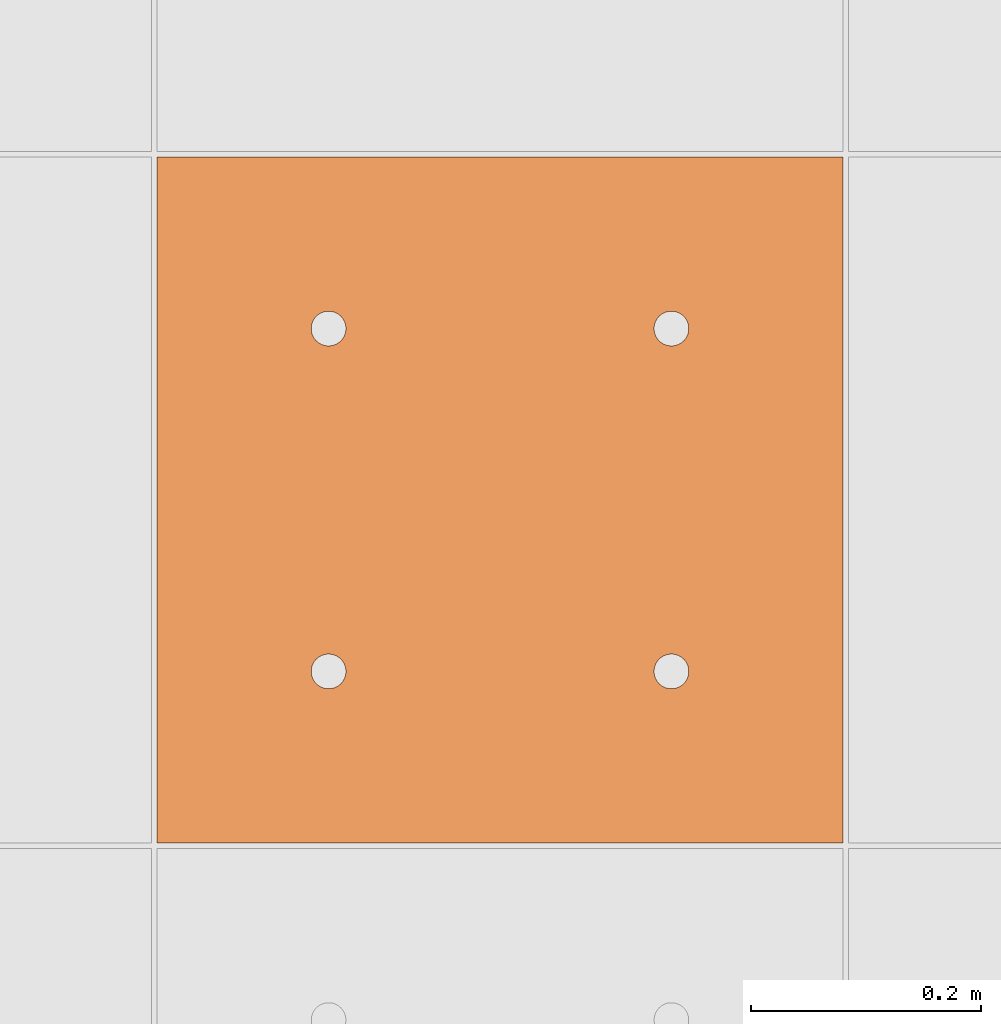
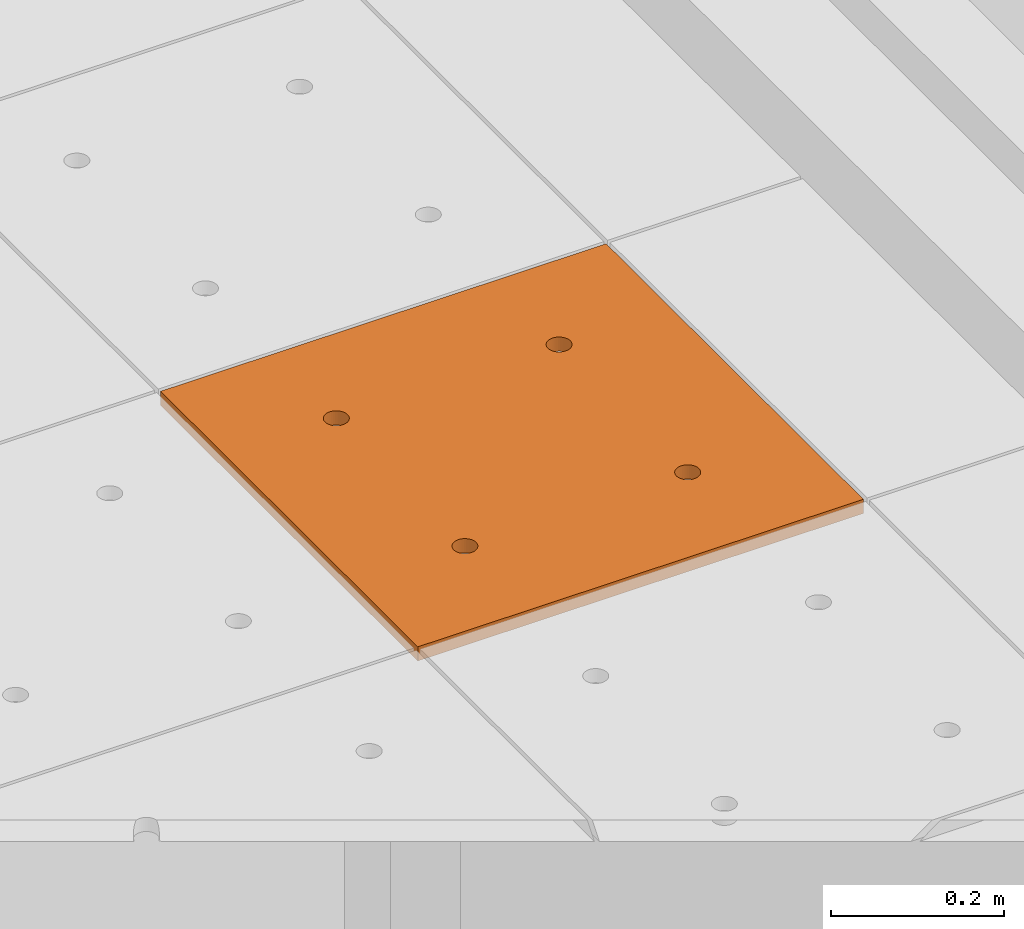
# One storey, part 293 of 338: 1 proxy, 1 element without a shape of its own.
"""IFC2X3 building model written with IfcOpenShell, lengths in millimetres."""

from ifc_helpers import new_model, entity, si_unit, converted_unit, derived_unit, money_unit, direction, frame, origin_with_axes, place, context, subcontext, project, spatial, faceted_brep, source, transform, mapped, material, type_object, type_shapes, element, aggregate, save


model = new_model("IFC2X3")

# Units and contexts
model_context = context("Model", 3, precision=0.01, world=origin_with_axes(), true_north=direction((0.0, 1.0)))
plan_context = context("Plan", 3, precision=0.01, world=origin_with_axes(), true_north=direction((0.0, 1.0)))
body_context = subcontext(model_context, "Body", "Model", "MODEL_VIEW")
ifc_project = project(units=[si_unit("LENGTHUNIT", "METRE", prefix="MILLI"), si_unit("AREAUNIT", "SQUARE_METRE"), si_unit("VOLUMEUNIT", "CUBIC_METRE"), converted_unit("PLANEANGLEUNIT", "DEGREE", entity("IfcPlaneAngleMeasure", 0.0174532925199), si_unit("PLANEANGLEUNIT", "RADIAN"), dimensions=[0, 0, 0, 0, 0, 0, 0]), money_unit("EUR"), converted_unit("TIMEUNIT", "Year", entity("IfcTimeMeasure", 31556926.0), si_unit("TIMEUNIT", "SECOND"), dimensions=[0, 0, 1, 0, 0, 0, 0]), si_unit("MASSUNIT", "GRAM", prefix="KILO"), si_unit("THERMODYNAMICTEMPERATUREUNIT", "DEGREE_CELSIUS"), si_unit("LUMINOUSINTENSITYUNIT", "LUMEN"), si_unit("ENERGYUNIT", "JOULE", prefix="MEGA"), derived_unit("THERMALCONDUCTANCEUNIT", [(si_unit("POWERUNIT", "WATT"), 1), (si_unit("LENGTHUNIT", "METRE"), -1), (si_unit("THERMODYNAMICTEMPERATUREUNIT", "KELVIN"), -1)]), derived_unit("SPECIFICHEATCAPACITYUNIT", [(si_unit("ENERGYUNIT", "JOULE"), 1), (si_unit("MASSUNIT", "GRAM", prefix="KILO"), -1), (si_unit("THERMODYNAMICTEMPERATUREUNIT", "KELVIN"), -1)]), derived_unit("MASSDENSITYUNIT", [(si_unit("MASSUNIT", "GRAM", prefix="KILO"), 1), (si_unit("VOLUMEUNIT", "CUBIC_METRE"), -1)])], contexts=[model_context, plan_context])

# Site, building, storey
site_placement = place(None, origin_with_axes())
site = spatial("IfcSite", under=ifc_project, at=site_placement, Name="Fortuinstraat Woensdrecht", CompositionType="ELEMENT")
building_placement = place(site_placement, origin_with_axes())
building = spatial("IfcBuilding", under=site, at=building_placement, Name="IKC Fortuna", CompositionType="ELEMENT")
storey_placement = place(building_placement, origin_with_axes())
storey = spatial("IfcBuildingStorey", under=building, at=storey_placement, Name="00 begane grond", CompositionType="ELEMENT", Elevation=0.0)

# Covering, proxy
covering_type = type_object("IfcCoveringType", Name="Curtain Wall Type", PredefinedType="CEILING")
covering_placement = place(storey_placement, frame((31656.9226967, 15748.5304598, 3210.0), z_axis=(0.0, 0.0, 1.0), x_axis=(1.0, 0.0, 0.0)))
covering = element("IfcCovering", 1, at=covering_placement, inside=storey, type_object=covering_type, Name="45_Plafondafwerking_P01", PredefinedType="CEILING")
ifc_material = material(Name="Gipsplaat")
building_element_proxy_type = type_object("IfcBuildingElementProxyType", Name="Main Panel 600 x 600 x 20", PredefinedType="NOTDEFINED")
shared_shape = source(origin_with_axes(), body_context, "Body", "Brep", [
    faceted_brep([(2.49999999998, 2.49999999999, -10.0), (300.0, 2.49999999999, -10.0), (300.0, 2.49999999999, 10.0), (2.49999999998, 2.49999999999, 10.0), (2.49999999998, 300.0, -10.0), (2.49999999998, 597.5, -10.0), (300.0, 597.5, -10.0), (597.5, 597.5, -10.0), (597.5, 300.0, -10.0), (597.5, 2.49999999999, -10.0), (166.25, 450.06232995, -10.0), (165.79423259, 452.64711538, -10.0), (164.896546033, 455.11348892, -10.0), (163.58421608, 457.38651108, -10.0), (161.897117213, 459.39711721, -10.0), (159.886511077, 461.08421608, -10.0), (157.613488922, 462.39654603, -10.0), (155.147115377, 463.29423259, -10.0), (152.562329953, 463.75, -10.0), (149.937670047, 463.75, -10.0), (147.352884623, 463.29423259, -10.0), (144.886511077, 462.39654603, -10.0), (142.613488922, 461.08421608, -10.0), (140.602882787, 459.39711721, -10.0), (138.91578392, 457.38651108, -10.0), (137.603453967, 455.11348892, -10.0), (136.705767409, 452.64711538, -10.0), (136.25, 450.06232995, -10.0), (136.25, 448.75, -10.0), (136.25, 447.43767005, -10.0), (136.705767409, 444.85288462, -10.0), (137.603453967, 442.38651108, -10.0), (138.91578392, 440.11348892, -10.0), (140.602882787, 438.10288279, -10.0), (142.613488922, 436.41578392, -10.0), (144.886511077, 435.10345397, -10.0), (147.352884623, 434.20576741, -10.0), (149.937670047, 433.75, -10.0), (152.562329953, 433.75, -10.0), (155.147115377, 434.20576741, -10.0), (157.613488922, 435.10345397, -10.0), (159.886511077, 436.41578392, -10.0), (161.897117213, 438.10288279, -10.0), (163.58421608, 440.11348892, -10.0), (164.896546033, 442.38651108, -10.0), (165.79423259, 444.85288462, -10.0), (166.25, 447.43767005, -10.0), (463.75, 450.06232995, -10.0), (463.29423259, 452.64711538, -10.0), (462.396546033, 455.11348892, -10.0), (461.08421608, 457.38651108, -10.0), (459.397117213, 459.39711721, -10.0), (457.386511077, 461.08421608, -10.0), (455.113488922, 462.39654603, -10.0), (452.647115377, 463.29423259, -10.0), (450.062329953, 463.75, -10.0), (447.437670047, 463.75, -10.0), (444.852884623, 463.29423259, -10.0), (442.386511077, 462.39654603, -10.0), (440.113488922, 461.08421608, -10.0), (438.102882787, 459.39711721, -10.0), (436.41578392, 457.38651108, -10.0), (435.103453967, 455.11348892, -10.0), (434.205767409, 452.64711538, -10.0), (433.75, 450.06232995, -10.0), (433.75, 448.75, -10.0), (433.75, 447.43767005, -10.0), (434.205767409, 444.85288462, -10.0), (435.103453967, 442.38651108, -10.0), (436.41578392, 440.11348892, -10.0), (438.102882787, 438.10288279, -10.0), (440.113488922, 436.41578392, -10.0), (442.386511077, 435.10345397, -10.0), (444.852884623, 434.20576741, -10.0), (447.437670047, 433.75, -10.0), (450.062329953, 433.75, -10.0), (452.647115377, 434.20576741, -10.0), (455.113488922, 435.10345397, -10.0), (457.386511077, 436.41578392, -10.0), (459.397117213, 438.10288279, -10.0), (461.08421608, 440.11348892, -10.0), (462.396546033, 442.38651108, -10.0), (463.29423259, 444.85288462, -10.0), (463.75, 447.43767005, -10.0), (463.75, 152.56232995, -10.0), (463.29423259, 155.14711538, -10.0), (462.396546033, 157.61348892, -10.0), (461.08421608, 159.88651108, -10.0), (459.397117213, 161.89711721, -10.0), (457.386511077, 163.58421608, -10.0), (455.113488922, 164.89654603, -10.0), (452.647115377, 165.79423259, -10.0), (450.062329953, 166.25, -10.0), (447.437670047, 166.25, -10.0), (444.852884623, 165.79423259, -10.0), (442.386511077, 164.89654603, -10.0), (440.113488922, 163.58421608, -10.0), (438.102882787, 161.89711721, -10.0), (436.41578392, 159.88651108, -10.0), (435.103453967, 157.61348892, -10.0), (434.205767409, 155.14711538, -10.0), (433.75, 152.56232995, -10.0), (433.75, 151.25, -10.0), (433.75, 149.93767005, -10.0), (434.205767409, 147.35288462, -10.0), (435.103453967, 144.88651108, -10.0), (436.41578392, 142.61348892, -10.0), (438.102882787, 140.60288279, -10.0), (440.113488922, 138.91578392, -10.0), (442.386511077, 137.60345397, -10.0), (444.852884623, 136.70576741, -10.0), (447.437670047, 136.25, -10.0), (450.062329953, 136.25, -10.0), (452.647115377, 136.70576741, -10.0), (455.113488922, 137.60345397, -10.0), (457.386511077, 138.91578392, -10.0), (459.397117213, 140.60288279, -10.0), (461.08421608, 142.61348892, -10.0), (462.396546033, 144.88651108, -10.0), (463.29423259, 147.35288462, -10.0), (463.75, 149.93767005, -10.0), (166.25, 152.56232995, -10.0), (165.79423259, 155.14711538, -10.0), (164.896546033, 157.61348892, -10.0), (163.58421608, 159.88651108, -10.0), (161.897117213, 161.89711721, -10.0), (159.886511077, 163.58421608, -10.0), (157.613488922, 164.89654603, -10.0), (155.147115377, 165.79423259, -10.0), (152.562329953, 166.25, -10.0), (149.937670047, 166.25, -10.0), (147.352884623, 165.79423259, -10.0), (144.886511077, 164.89654603, -10.0), (142.613488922, 163.58421608, -10.0), (140.602882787, 161.89711721, -10.0), (138.91578392, 159.88651108, -10.0), (137.603453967, 157.61348892, -10.0), (136.705767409, 155.14711538, -10.0), (136.25, 152.56232995, -10.0), (136.25, 151.25, -10.0), (136.25, 149.93767005, -10.0), (136.705767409, 147.35288462, -10.0), (137.603453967, 144.88651108, -10.0), (138.91578392, 142.61348892, -10.0), (140.602882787, 140.60288279, -10.0), (142.613488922, 138.91578392, -10.0), (144.886511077, 137.60345397, -10.0), (147.352884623, 136.70576741, -10.0), (149.937670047, 136.25, -10.0), (152.562329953, 136.25, -10.0), (155.147115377, 136.70576741, -10.0), (157.613488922, 137.60345397, -10.0), (159.886511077, 138.91578392, -10.0), (161.897117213, 140.60288279, -10.0), (163.58421608, 142.61348892, -10.0), (164.896546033, 144.88651108, -10.0), (165.79423259, 147.35288462, -10.0), (166.25, 149.93767005, -10.0), (597.5, 2.49999999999, 10.0), (597.5, 300.0, 10.0), (597.5, 597.5, 10.0), (300.0, 597.5, 10.0), (2.49999999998, 597.5, 10.0), (2.49999999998, 300.0, 10.0), (166.25, 450.06232995, 10.0), (166.25, 447.43767005, 10.0), (165.79423259, 444.85288462, 10.0), (164.896546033, 442.38651108, 10.0), (163.58421608, 440.11348892, 10.0), (161.897117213, 438.10288279, 10.0), (159.886511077, 436.41578392, 10.0), (157.613488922, 435.10345397, 10.0), (155.147115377, 434.20576741, 10.0), (152.562329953, 433.75, 10.0), (149.937670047, 433.75, 10.0), (147.352884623, 434.20576741, 10.0), (144.886511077, 435.10345397, 10.0), (142.613488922, 436.41578392, 10.0), (140.602882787, 438.10288279, 10.0), (138.91578392, 440.11348892, 10.0), (137.603453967, 442.38651108, 10.0), (136.705767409, 444.85288462, 10.0), (136.25, 447.43767005, 10.0), (136.25, 448.75, 10.0), (136.25, 450.06232995, 10.0), (136.705767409, 452.64711538, 10.0), (137.603453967, 455.11348892, 10.0), (138.91578392, 457.38651108, 10.0), (140.602882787, 459.39711721, 10.0), (142.613488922, 461.08421608, 10.0), (144.886511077, 462.39654603, 10.0), (147.352884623, 463.29423259, 10.0), (149.937670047, 463.75, 10.0), (152.562329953, 463.75, 10.0), (155.147115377, 463.29423259, 10.0), (157.613488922, 462.39654603, 10.0), (159.886511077, 461.08421608, 10.0), (161.897117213, 459.39711721, 10.0), (163.58421608, 457.38651108, 10.0), (164.896546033, 455.11348892, 10.0), (165.79423259, 452.64711538, 10.0), (463.75, 450.06232995, 10.0), (463.75, 447.43767005, 10.0), (463.29423259, 444.85288462, 10.0), (462.396546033, 442.38651108, 10.0), (461.08421608, 440.11348892, 10.0), (459.397117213, 438.10288279, 10.0), (457.386511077, 436.41578392, 10.0), (455.113488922, 435.10345397, 10.0), (452.647115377, 434.20576741, 10.0), (450.062329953, 433.75, 10.0), (447.437670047, 433.75, 10.0), (444.852884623, 434.20576741, 10.0), (442.386511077, 435.10345397, 10.0), (440.113488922, 436.41578392, 10.0), (438.102882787, 438.10288279, 10.0), (436.41578392, 440.11348892, 10.0), (435.103453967, 442.38651108, 10.0), (434.205767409, 444.85288462, 10.0), (433.75, 447.43767005, 10.0), (433.75, 448.75, 10.0), (433.75, 450.06232995, 10.0), (434.205767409, 452.64711538, 10.0), (435.103453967, 455.11348892, 10.0), (436.41578392, 457.38651108, 10.0), (438.102882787, 459.39711721, 10.0), (440.113488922, 461.08421608, 10.0), (442.386511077, 462.39654603, 10.0), (444.852884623, 463.29423259, 10.0), (447.437670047, 463.75, 10.0), (450.062329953, 463.75, 10.0), (452.647115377, 463.29423259, 10.0), (455.113488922, 462.39654603, 10.0), (457.386511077, 461.08421608, 10.0), (459.397117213, 459.39711721, 10.0), (461.08421608, 457.38651108, 10.0), (462.396546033, 455.11348892, 10.0), (463.29423259, 452.64711538, 10.0), (463.75, 152.56232995, 10.0), (463.75, 149.93767005, 10.0), (463.29423259, 147.35288462, 10.0), (462.396546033, 144.88651108, 10.0), (461.08421608, 142.61348892, 10.0), (459.397117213, 140.60288279, 10.0), (457.386511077, 138.91578392, 10.0), (455.113488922, 137.60345397, 10.0), (452.647115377, 136.70576741, 10.0), (450.062329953, 136.25, 10.0), (447.437670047, 136.25, 10.0), (444.852884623, 136.70576741, 10.0), (442.386511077, 137.60345397, 10.0), (440.113488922, 138.91578392, 10.0), (438.102882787, 140.60288279, 10.0), (436.41578392, 142.61348892, 10.0), (435.103453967, 144.88651108, 10.0), (434.205767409, 147.35288462, 10.0), (433.75, 149.93767005, 10.0), (433.75, 151.25, 10.0), (433.75, 152.56232995, 10.0), (434.205767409, 155.14711538, 10.0), (435.103453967, 157.61348892, 10.0), (436.41578392, 159.88651108, 10.0), (438.102882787, 161.89711721, 10.0), (440.113488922, 163.58421608, 10.0), (442.386511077, 164.89654603, 10.0), (444.852884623, 165.79423259, 10.0), (447.437670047, 166.25, 10.0), (450.062329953, 166.25, 10.0), (452.647115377, 165.79423259, 10.0), (455.113488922, 164.89654603, 10.0), (457.386511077, 163.58421608, 10.0), (459.397117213, 161.89711721, 10.0), (461.08421608, 159.88651108, 10.0), (462.396546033, 157.61348892, 10.0), (463.29423259, 155.14711538, 10.0), (166.25, 152.56232995, 10.0), (166.25, 149.93767005, 10.0), (165.79423259, 147.35288462, 10.0), (164.896546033, 144.88651108, 10.0), (163.58421608, 142.61348892, 10.0), (161.897117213, 140.60288279, 10.0), (159.886511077, 138.91578392, 10.0), (157.613488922, 137.60345397, 10.0), (155.147115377, 136.70576741, 10.0), (152.562329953, 136.25, 10.0), (149.937670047, 136.25, 10.0), (147.352884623, 136.70576741, 10.0), (144.886511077, 137.60345397, 10.0), (142.613488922, 138.91578392, 10.0), (140.602882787, 140.60288279, 10.0), (138.91578392, 142.61348892, 10.0), (137.603453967, 144.88651108, 10.0), (136.705767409, 147.35288462, 10.0), (136.25, 149.93767005, 10.0), (136.25, 151.25, 10.0), (136.25, 152.56232995, 10.0), (136.705767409, 155.14711538, 10.0), (137.603453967, 157.61348892, 10.0), (138.91578392, 159.88651108, 10.0), (140.602882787, 161.89711721, 10.0), (142.613488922, 163.58421608, 10.0), (144.886511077, 164.89654603, 10.0), (147.352884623, 165.79423259, 10.0), (149.937670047, 166.25, 10.0), (152.562329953, 166.25, 10.0), (155.147115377, 165.79423259, 10.0), (157.613488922, 164.89654603, 10.0), (159.886511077, 163.58421608, 10.0), (161.897117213, 161.89711721, 10.0), (163.58421608, 159.88651108, 10.0), (164.896546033, 157.61348892, 10.0), (165.79423259, 155.14711538, 10.0)], [[[0, 1, 2, 3]], [[0, 4, 5, 6, 7, 8, 9, 1], [10, 11, 12, 13, 14, 15, 16, 17, 18, 19, 20, 21, 22, 23, 24, 25, 26, 27, 28, 29, 30, 31, 32, 33, 34, 35, 36, 37, 38, 39, 40, 41, 42, 43, 44, 45, 46], [47, 48, 49, 50, 51, 52, 53, 54, 55, 56, 57, 58, 59, 60, 61, 62, 63, 64, 65, 66, 67, 68, 69, 70, 71, 72, 73, 74, 75, 76, 77, 78, 79, 80, 81, 82, 83], [84, 85, 86, 87, 88, 89, 90, 91, 92, 93, 94, 95, 96, 97, 98, 99, 100, 101, 102, 103, 104, 105, 106, 107, 108, 109, 110, 111, 112, 113, 114, 115, 116, 117, 118, 119, 120], [121, 122, 123, 124, 125, 126, 127, 128, 129, 130, 131, 132, 133, 134, 135, 136, 137, 138, 139, 140, 141, 142, 143, 144, 145, 146, 147, 148, 149, 150, 151, 152, 153, 154, 155, 156, 157]], [[1, 9, 158, 2]], [[3, 2, 158, 159, 160, 161, 162, 163], [164, 165, 166, 167, 168, 169, 170, 171, 172, 173, 174, 175, 176, 177, 178, 179, 180, 181, 182, 183, 184, 185, 186, 187, 188, 189, 190, 191, 192, 193, 194, 195, 196, 197, 198, 199, 200], [201, 202, 203, 204, 205, 206, 207, 208, 209, 210, 211, 212, 213, 214, 215, 216, 217, 218, 219, 220, 221, 222, 223, 224, 225, 226, 227, 228, 229, 230, 231, 232, 233, 234, 235, 236, 237], [238, 239, 240, 241, 242, 243, 244, 245, 246, 247, 248, 249, 250, 251, 252, 253, 254, 255, 256, 257, 258, 259, 260, 261, 262, 263, 264, 265, 266, 267, 268, 269, 270, 271, 272, 273, 274], [275, 276, 277, 278, 279, 280, 281, 282, 283, 284, 285, 286, 287, 288, 289, 290, 291, 292, 293, 294, 295, 296, 297, 298, 299, 300, 301, 302, 303, 304, 305, 306, 307, 308, 309, 310, 311]], [[4, 0, 3, 163]], [[5, 4, 163, 162]], [[6, 5, 162, 161]], [[7, 6, 161, 160]], [[8, 7, 160, 159]], [[9, 8, 159, 158]], [[11, 10, 164, 200]], [[12, 11, 200, 199]], [[13, 12, 199, 198]], [[14, 13, 198, 197]], [[15, 14, 197, 196]], [[16, 15, 196, 195]], [[17, 16, 195, 194]], [[18, 17, 194, 193]], [[19, 18, 193, 192]], [[20, 19, 192, 191]], [[21, 20, 191, 190]], [[22, 21, 190, 189]], [[23, 22, 189, 188]], [[24, 23, 188, 187]], [[25, 24, 187, 186]], [[26, 25, 186, 185]], [[27, 26, 185, 184]], [[28, 27, 184, 183]], [[29, 28, 183, 182]], [[30, 29, 182, 181]], [[31, 30, 181, 180]], [[32, 31, 180, 179]], [[33, 32, 179, 178]], [[34, 33, 178, 177]], [[35, 34, 177, 176]], [[36, 35, 176, 175]], [[37, 36, 175, 174]], [[38, 37, 174, 173]], [[39, 38, 173, 172]], [[40, 39, 172, 171]], [[41, 40, 171, 170]], [[42, 41, 170, 169]], [[43, 42, 169, 168]], [[44, 43, 168, 167]], [[45, 44, 167, 166]], [[46, 45, 166, 165]], [[10, 46, 165, 164]], [[48, 47, 201, 237]], [[49, 48, 237, 236]], [[50, 49, 236, 235]], [[51, 50, 235, 234]], [[52, 51, 234, 233]], [[53, 52, 233, 232]], [[54, 53, 232, 231]], [[55, 54, 231, 230]], [[56, 55, 230, 229]], [[57, 56, 229, 228]], [[58, 57, 228, 227]], [[59, 58, 227, 226]], [[60, 59, 226, 225]], [[61, 60, 225, 224]], [[62, 61, 224, 223]], [[63, 62, 223, 222]], [[64, 63, 222, 221]], [[65, 64, 221, 220]], [[66, 65, 220, 219]], [[67, 66, 219, 218]], [[68, 67, 218, 217]], [[69, 68, 217, 216]], [[70, 69, 216, 215]], [[71, 70, 215, 214]], [[72, 71, 214, 213]], [[73, 72, 213, 212]], [[74, 73, 212, 211]], [[75, 74, 211, 210]], [[76, 75, 210, 209]], [[77, 76, 209, 208]], [[78, 77, 208, 207]], [[79, 78, 207, 206]], [[80, 79, 206, 205]], [[81, 80, 205, 204]], [[82, 81, 204, 203]], [[83, 82, 203, 202]], [[47, 83, 202, 201]], [[85, 84, 238, 274]], [[86, 85, 274, 273]], [[87, 86, 273, 272]], [[88, 87, 272, 271]], [[89, 88, 271, 270]], [[90, 89, 270, 269]], [[91, 90, 269, 268]], [[92, 91, 268, 267]], [[93, 92, 267, 266]], [[94, 93, 266, 265]], [[95, 94, 265, 264]], [[96, 95, 264, 263]], [[97, 96, 263, 262]], [[98, 97, 262, 261]], [[99, 98, 261, 260]], [[100, 99, 260, 259]], [[101, 100, 259, 258]], [[102, 101, 258, 257]], [[103, 102, 257, 256]], [[104, 103, 256, 255]], [[105, 104, 255, 254]], [[106, 105, 254, 253]], [[107, 106, 253, 252]], [[108, 107, 252, 251]], [[109, 108, 251, 250]], [[110, 109, 250, 249]], [[111, 110, 249, 248]], [[112, 111, 248, 247]], [[113, 112, 247, 246]], [[114, 113, 246, 245]], [[115, 114, 245, 244]], [[116, 115, 244, 243]], [[117, 116, 243, 242]], [[118, 117, 242, 241]], [[119, 118, 241, 240]], [[120, 119, 240, 239]], [[84, 120, 239, 238]], [[122, 121, 275, 311]], [[123, 122, 311, 310]], [[124, 123, 310, 309]], [[125, 124, 309, 308]], [[126, 125, 308, 307]], [[127, 126, 307, 306]], [[128, 127, 306, 305]], [[129, 128, 305, 304]], [[130, 129, 304, 303]], [[131, 130, 303, 302]], [[132, 131, 302, 301]], [[133, 132, 301, 300]], [[134, 133, 300, 299]], [[135, 134, 299, 298]], [[136, 135, 298, 297]], [[137, 136, 297, 296]], [[138, 137, 296, 295]], [[139, 138, 295, 294]], [[140, 139, 294, 293]], [[141, 140, 293, 292]], [[142, 141, 292, 291]], [[143, 142, 291, 290]], [[144, 143, 290, 289]], [[145, 144, 289, 288]], [[146, 145, 288, 287]], [[147, 146, 287, 286]], [[148, 147, 286, 285]], [[149, 148, 285, 284]], [[150, 149, 284, 283]], [[151, 150, 283, 282]], [[152, 151, 282, 281]], [[153, 152, 281, 280]], [[154, 153, 280, 279]], [[155, 154, 279, 278]], [[156, 155, 278, 277]], [[157, 156, 277, 276]], [[121, 157, 276, 275]]]),
])
type_shapes(building_element_proxy_type, [shared_shape])
proxy_placement = place(covering_placement, frame((2400.0, 600.0, 0.0), z_axis=(0.0, 0.0, 1.0), x_axis=(1.0, 0.0, 0.0)))
proxy = element("IfcBuildingElementProxy", 2, at=proxy_placement, type_object=building_element_proxy_type, material=ifc_material, Name="__600x629 Rockfon Krios", context=body_context, shape_type="MappedRepresentation", body=[
    mapped(shared_shape, transform((300.0, 300.0, 0.0), x_axis=(-1.0, 0.0, 0.0), y_axis=(0.0, -1.0, 0.0), z_axis=(0.0, 0.0, 1.0))),
])
aggregate(covering, [proxy])

save(model, "model.ifc")
